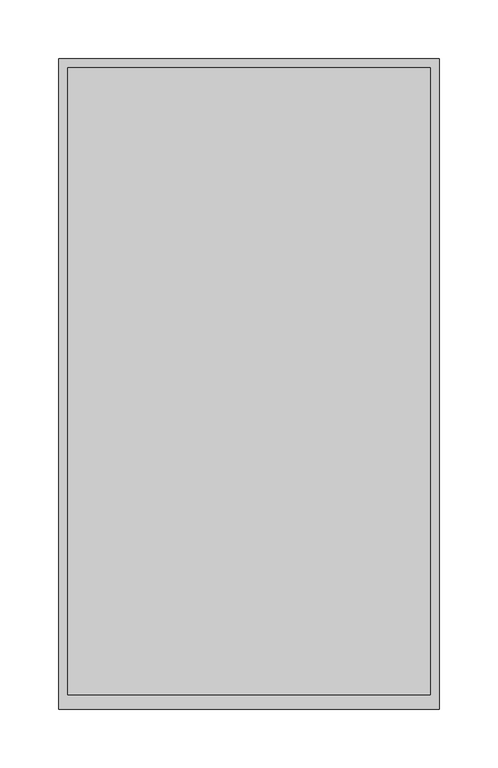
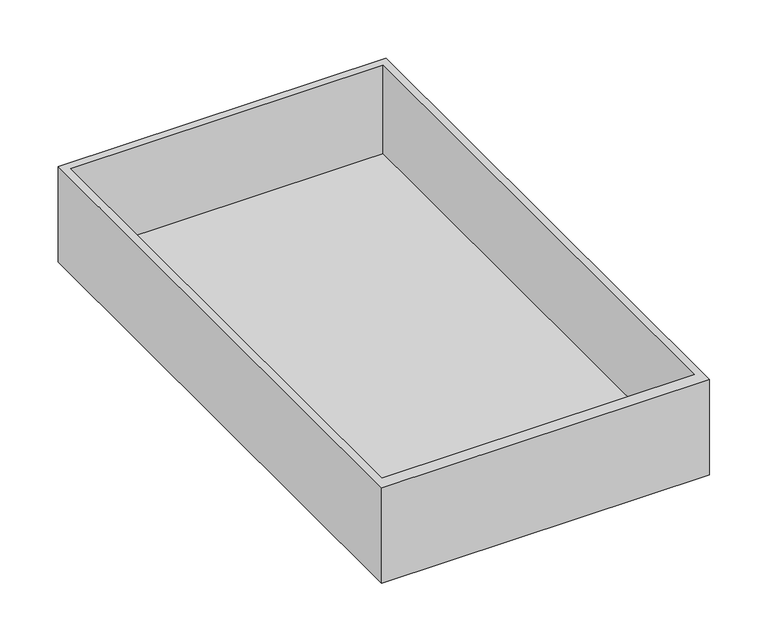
"""IFC4 building model written with IfcOpenShell, lengths in millimetres: proxy geometry, Modelos genéricos 129 : Modelos genéricos 29."""

from ifc_helpers import new_model, si_unit, origin, place, context, project, spatial, faceted_brep, source, transform, mapped, element, save


def generic_models_5b65bc25(model_context):
    return source(origin(), model_context, "Body", "Brep", [
        faceted_brep([(-10011.8745256, -6352.0417559, 1086.3966943), (-10336.8745256, -6352.0417559, 1086.3966943), (-10336.8745256, -6907.9992451, 1086.3966943), (-10011.8745256, -6907.9992451, 1086.3966943), (-10019.2173981, -6359.9029176, 1086.3966943), (-10019.2173981, -6895.2456916, 1086.3966943), (-10329.2173981, -6895.2456916, 1086.3966943), (-10329.2173981, -6359.9029176, 1086.3966943), (-10011.8745256, -6352.0417559, 986.3966943), (-10011.8745256, -6907.9992451, 986.3966943), (-10336.8745256, -6907.9992451, 986.3966943), (-10336.8745256, -6352.0417559, 986.3966943), (-10019.2173981, -6359.9029176, 993.8583576), (-10019.2173981, -6895.2456916, 993.8583576), (-10329.2173981, -6895.2456916, 993.8583576), (-10329.2173981, -6359.9029176, 993.8583576)], [[[0, 1, 2, 3], [4, 5, 6, 7]], [[8, 9, 10, 11]], [[0, 3, 9, 8]], [[3, 2, 10, 9]], [[2, 1, 11, 10]], [[1, 0, 8, 11]], [[12, 13, 5, 4]], [[13, 14, 6, 5]], [[14, 15, 7, 6]], [[15, 12, 4, 7]], [[12, 15, 14, 13]]]),
    ])


if __name__ == "__main__":
    model = new_model("IFC4")
    model_context = context("Model", 3, world=origin())
    ifc_project = project(units=[si_unit("LENGTHUNIT", "METRE", prefix="MILLI")], contexts=[model_context])
    site = spatial("IfcSite", under=ifc_project)
    building = spatial("IfcBuilding", under=site)
    placement = place(None, origin())
    generic_models_shape = generic_models_5b65bc25(model_context)
    element("IfcBuildingElementProxy", 1, Name="Modelos genéricos 129 : Modelos genéricos 29", ObjectType="Modelos genéricos 129 : Modelos genéricos 29", at=placement, inside=building, context=model_context, shape_type="MappedRepresentation", body=[
        mapped(generic_models_shape, transform((0.0, 0.0, 0.0), x_axis=(1.0, 0.0, 0.0), y_axis=(0.0, 1.0, 0.0), z_axis=(0.0, 0.0, 1.0))),
    ])
    save(model, "model.ifc")
